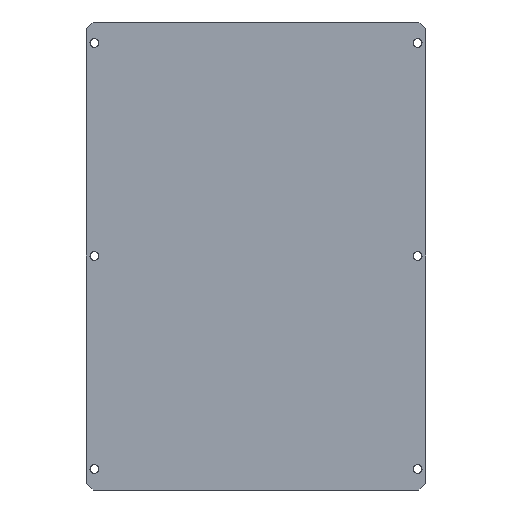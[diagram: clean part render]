
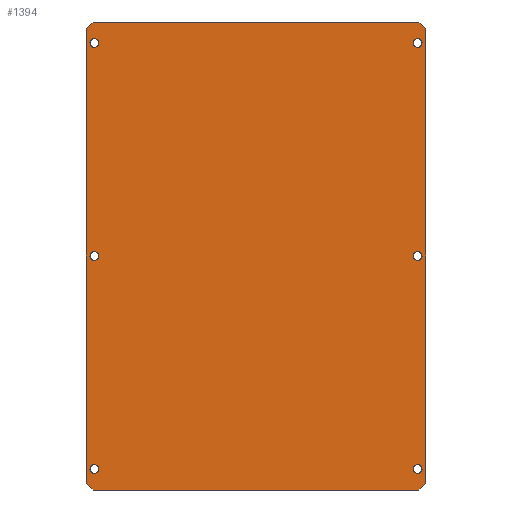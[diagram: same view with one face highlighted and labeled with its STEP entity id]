
A CAD part, front view. The second image highlights one B-rep face of the part: STEP entity #1394.
In plain terms, the highlighted planar face has unit normal (0, -1, 0).
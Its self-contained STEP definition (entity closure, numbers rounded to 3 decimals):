
#17=FACE_BOUND('',#260,.T.);
#18=FACE_BOUND('',#261,.T.);
#19=FACE_BOUND('',#262,.T.);
#20=FACE_BOUND('',#263,.T.);
#21=FACE_BOUND('',#264,.T.);
#22=FACE_BOUND('',#265,.T.);
#165=FACE_OUTER_BOUND('',#259,.T.);
#259=EDGE_LOOP('',(#1142,#1143,#1144,#1145,#1146,#1147,#1148,#1149));
#260=EDGE_LOOP('',(#1150));
#261=EDGE_LOOP('',(#1151));
#262=EDGE_LOOP('',(#1152));
#263=EDGE_LOOP('',(#1153));
#264=EDGE_LOOP('',(#1154));
#265=EDGE_LOOP('',(#1155));
#367=CIRCLE('',#1555,1.6);
#369=CIRCLE('',#1558,1.6);
#371=CIRCLE('',#1561,1.6);
#373=CIRCLE('',#1565,1.6);
#375=CIRCLE('',#1568,1.6);
#377=CIRCLE('',#1571,1.6);
#440=LINE('',#2312,#545);
#445=LINE('',#2336,#550);
#450=LINE('',#2345,#555);
#452=LINE('',#2350,#557);
#459=LINE('',#2363,#564);
#460=LINE('',#2365,#565);
#461=LINE('',#2367,#566);
#462=LINE('',#2368,#567);
#545=VECTOR('',#1918,10.);
#550=VECTOR('',#1943,10.);
#555=VECTOR('',#1950,10.);
#557=VECTOR('',#1954,10.);
#564=VECTOR('',#1965,10.);
#565=VECTOR('',#1968,10.);
#566=VECTOR('',#1969,10.);
#567=VECTOR('',#1970,10.);
#667=VERTEX_POINT('',#2287);
#669=VERTEX_POINT('',#2293);
#671=VERTEX_POINT('',#2299);
#674=VERTEX_POINT('',#2306);
#676=VERTEX_POINT('',#2310);
#677=VERTEX_POINT('',#2314);
#679=VERTEX_POINT('',#2320);
#681=VERTEX_POINT('',#2326);
#683=VERTEX_POINT('',#2332);
#685=VERTEX_POINT('',#2335);
#688=VERTEX_POINT('',#2343);
#690=VERTEX_POINT('',#2349);
#694=VERTEX_POINT('',#2361);
#695=VERTEX_POINT('',#2366);
#824=EDGE_CURVE('',#667,#667,#367,.T.);
#827=EDGE_CURVE('',#669,#669,#369,.T.);
#830=EDGE_CURVE('',#671,#671,#371,.T.);
#836=EDGE_CURVE('',#674,#676,#440,.T.);
#837=EDGE_CURVE('',#677,#677,#373,.T.);
#840=EDGE_CURVE('',#679,#679,#375,.T.);
#843=EDGE_CURVE('',#681,#681,#377,.T.);
#847=EDGE_CURVE('',#685,#683,#445,.T.);
#852=EDGE_CURVE('',#688,#683,#450,.T.);
#854=EDGE_CURVE('',#674,#690,#452,.T.);
#861=EDGE_CURVE('',#694,#676,#459,.T.);
#862=EDGE_CURVE('',#688,#690,#460,.T.);
#863=EDGE_CURVE('',#694,#695,#461,.T.);
#864=EDGE_CURVE('',#685,#695,#462,.T.);
#1142=ORIENTED_EDGE('',*,*,#852,.F.);
#1143=ORIENTED_EDGE('',*,*,#862,.T.);
#1144=ORIENTED_EDGE('',*,*,#854,.F.);
#1145=ORIENTED_EDGE('',*,*,#836,.T.);
#1146=ORIENTED_EDGE('',*,*,#861,.F.);
#1147=ORIENTED_EDGE('',*,*,#863,.T.);
#1148=ORIENTED_EDGE('',*,*,#864,.F.);
#1149=ORIENTED_EDGE('',*,*,#847,.T.);
#1150=ORIENTED_EDGE('',*,*,#830,.T.);
#1151=ORIENTED_EDGE('',*,*,#827,.T.);
#1152=ORIENTED_EDGE('',*,*,#824,.T.);
#1153=ORIENTED_EDGE('',*,*,#843,.T.);
#1154=ORIENTED_EDGE('',*,*,#840,.T.);
#1155=ORIENTED_EDGE('',*,*,#837,.T.);
#1307=PLANE('',#1578);
#1394=ADVANCED_FACE('',(#165,#17,#18,#19,#20,#21,#22),#1307,.F.);
#1555=AXIS2_PLACEMENT_3D('',#2288,#1894,#1895);
#1558=AXIS2_PLACEMENT_3D('',#2294,#1901,#1902);
#1561=AXIS2_PLACEMENT_3D('',#2300,#1908,#1909);
#1565=AXIS2_PLACEMENT_3D('',#2315,#1921,#1922);
#1568=AXIS2_PLACEMENT_3D('',#2321,#1928,#1929);
#1571=AXIS2_PLACEMENT_3D('',#2327,#1935,#1936);
#1578=AXIS2_PLACEMENT_3D('',#2364,#1966,#1967);
#1894=DIRECTION('center_axis',(0.,1.,0.));
#1895=DIRECTION('ref_axis',(1.,0.,0.));
#1901=DIRECTION('center_axis',(0.,1.,0.));
#1902=DIRECTION('ref_axis',(1.,0.,0.));
#1908=DIRECTION('center_axis',(0.,1.,0.));
#1909=DIRECTION('ref_axis',(1.,0.,0.));
#1918=DIRECTION('',(0.,0.,1.));
#1921=DIRECTION('center_axis',(0.,1.,0.));
#1922=DIRECTION('ref_axis',(1.,0.,0.));
#1928=DIRECTION('center_axis',(0.,1.,0.));
#1929=DIRECTION('ref_axis',(1.,0.,0.));
#1935=DIRECTION('center_axis',(0.,1.,0.));
#1936=DIRECTION('ref_axis',(1.,0.,0.));
#1943=DIRECTION('',(0.,0.,-1.));
#1950=DIRECTION('',(-0.707,0.,0.707));
#1954=DIRECTION('',(-0.707,0.,-0.707));
#1965=DIRECTION('',(0.707,0.,-0.707));
#1966=DIRECTION('center_axis',(0.,1.,0.));
#1967=DIRECTION('ref_axis',(0.,0.,1.));
#1968=DIRECTION('',(1.,0.,0.));
#1969=DIRECTION('',(-1.,0.,0.));
#1970=DIRECTION('',(0.707,0.,0.707));
#2287=CARTESIAN_POINT('',(-4.6,0.,-7.5));
#2288=CARTESIAN_POINT('Origin',(-3.,0.,-7.5));
#2293=CARTESIAN_POINT('',(-4.6,0.,-84.));
#2294=CARTESIAN_POINT('Origin',(-3.,0.,-84.));
#2299=CARTESIAN_POINT('',(-4.6,0.,-160.5));
#2300=CARTESIAN_POINT('Origin',(-3.,0.,-160.5));
#2306=CARTESIAN_POINT('',(0.,0.,-165.5));
#2310=CARTESIAN_POINT('',(0.,0.,-2.5));
#2312=CARTESIAN_POINT('',(0.,0.,-168.));
#2314=CARTESIAN_POINT('',(-120.6,0.,-7.5));
#2315=CARTESIAN_POINT('Origin',(-119.,0.,-7.5));
#2320=CARTESIAN_POINT('',(-120.6,0.,-84.));
#2321=CARTESIAN_POINT('Origin',(-119.,0.,-84.));
#2326=CARTESIAN_POINT('',(-120.6,0.,-160.5));
#2327=CARTESIAN_POINT('Origin',(-119.,0.,-160.5));
#2332=CARTESIAN_POINT('',(-122.,0.,-165.5));
#2335=CARTESIAN_POINT('',(-122.,0.,-2.5));
#2336=CARTESIAN_POINT('',(-122.,0.,0.));
#2343=CARTESIAN_POINT('',(-119.5,0.,-168.));
#2345=CARTESIAN_POINT('',(-126.5,0.,-161.));
#2349=CARTESIAN_POINT('',(-2.5,0.,-168.));
#2350=CARTESIAN_POINT('',(4.5,0.,-161.));
#2361=CARTESIAN_POINT('',(-2.5,0.,0.));
#2363=CARTESIAN_POINT('',(4.5,0.,-7.));
#2364=CARTESIAN_POINT('Origin',(-61.,0.,-84.));
#2365=CARTESIAN_POINT('',(-122.,0.,-168.));
#2366=CARTESIAN_POINT('',(-119.5,0.,0.));
#2367=CARTESIAN_POINT('',(0.,0.,0.));
#2368=CARTESIAN_POINT('',(-126.5,0.,-7.));
